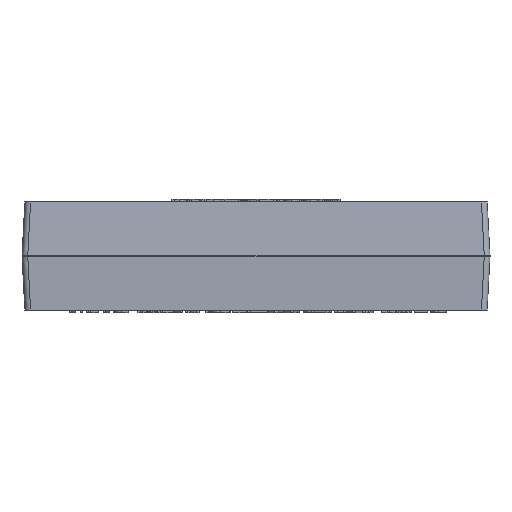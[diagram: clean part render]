
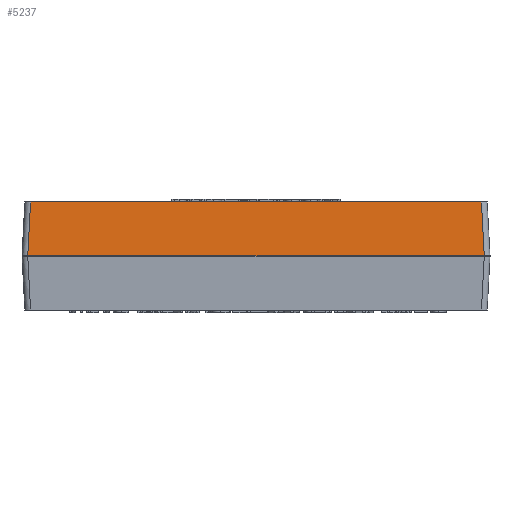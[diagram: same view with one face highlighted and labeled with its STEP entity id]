
A CAD part, front view. The second image highlights one B-rep face of the part: STEP entity #5237.
In plain terms, the highlighted planar face has unit normal (0, -0.999, 0.052).
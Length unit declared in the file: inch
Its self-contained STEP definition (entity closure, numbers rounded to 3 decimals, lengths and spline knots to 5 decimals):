
#1709 = DIRECTION ( 'NONE',  ( -0.052, 0.052, 0.997 ) ) ;
#2498 = ORIENTED_EDGE ( 'NONE', *, *, #19420, .T. ) ;
#3621 = ORIENTED_EDGE ( 'NONE', *, *, #20075, .T. ) ;
#3702 = VERTEX_POINT ( 'NONE', #4961 ) ;
#4092 = CARTESIAN_POINT ( 'NONE',  ( 1.17084, -0.85705, 0.34244 ) ) ;
#4824 = EDGE_CURVE ( 'NONE', #14566, #3702, #31632, .T. ) ;
#4961 = CARTESIAN_POINT ( 'NONE',  ( 1.17405, -0.86026, 0.28125 ) ) ;
#5237 = ADVANCED_FACE ( 'NONE', ( #11947 ), #13332, .F. ) ;
#9707 = CARTESIAN_POINT ( 'NONE',  ( 1.21875, -0.87492, 0.00157 ) ) ;
#10187 = VECTOR ( 'NONE', #29466, 39.37008 ) ;
#10711 = ORIENTED_EDGE ( 'NONE', *, *, #4824, .F. ) ;
#10934 = CARTESIAN_POINT ( 'NONE',  ( -1.17405, -0.86026, 0.28125 ) ) ;
#11280 = DIRECTION ( 'NONE',  ( 0., 0.999, -0.052 ) ) ;
#11947 = FACE_OUTER_BOUND ( 'NONE', #21045, .T. ) ;
#12533 = LINE ( 'NONE', #4092, #15226 ) ;
#13332 = PLANE ( 'NONE',  #14428 ) ;
#14428 = AXIS2_PLACEMENT_3D ( 'NONE', #25591, #11280, #15778 ) ;
#14566 = VERTEX_POINT ( 'NONE', #10934 ) ;
#15226 = VECTOR ( 'NONE', #1709, 39.37008 ) ;
#15429 = VECTOR ( 'NONE', #16575, 39.37008 ) ;
#15593 = CARTESIAN_POINT ( 'NONE',  ( -1.18871, -0.87492, 0.00157 ) ) ;
#15778 = DIRECTION ( 'NONE',  ( -1., 0., 0. ) ) ;
#16575 = DIRECTION ( 'NONE',  ( 1., 0., 0. ) ) ;
#18374 = LINE ( 'NONE', #9707, #22997 ) ;
#19420 = EDGE_CURVE ( 'NONE', #23428, #3702, #12533, .T. ) ;
#20075 = EDGE_CURVE ( 'NONE', #14566, #26365, #25183, .T. ) ;
#21045 = EDGE_LOOP ( 'NONE', ( #29022, #2498, #10711, #3621 ) ) ;
#22131 = CARTESIAN_POINT ( 'NONE',  ( -1.17084, -0.85705, 0.34244 ) ) ;
#22997 = VECTOR ( 'NONE', #26938, 39.37008 ) ;
#23428 = VERTEX_POINT ( 'NONE', #31522 ) ;
#23677 = CARTESIAN_POINT ( 'NONE',  ( 0., -0.86026, 0.28125 ) ) ;
#25183 = LINE ( 'NONE', #22131, #10187 ) ;
#25591 = CARTESIAN_POINT ( 'NONE',  ( 0., -0.86026, 0.28125 ) ) ;
#26102 = EDGE_CURVE ( 'NONE', #26365, #23428, #18374, .T. ) ;
#26365 = VERTEX_POINT ( 'NONE', #15593 ) ;
#26938 = DIRECTION ( 'NONE',  ( 1., 0., 0. ) ) ;
#29022 = ORIENTED_EDGE ( 'NONE', *, *, #26102, .T. ) ;
#29466 = DIRECTION ( 'NONE',  ( -0.052, -0.052, -0.997 ) ) ;
#31522 = CARTESIAN_POINT ( 'NONE',  ( 1.18871, -0.87492, 0.00157 ) ) ;
#31632 = LINE ( 'NONE', #23677, #15429 ) ;
